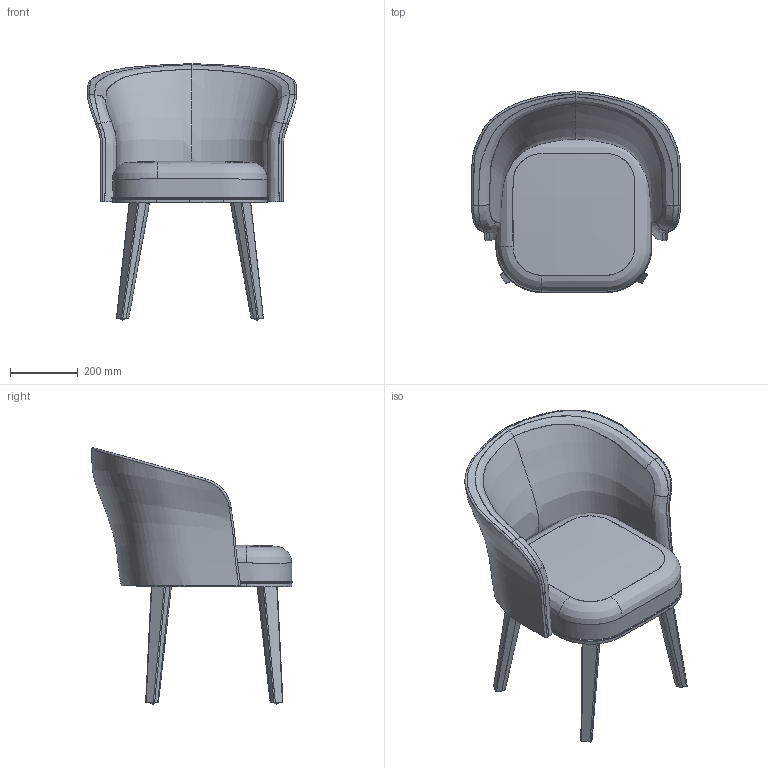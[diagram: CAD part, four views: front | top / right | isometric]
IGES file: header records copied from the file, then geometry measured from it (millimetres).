
Global section: file name: C:\Users\market02\Desktop\RYAN\FMERIBR060_BRIDGE_DINNING CHAIR_MERINGUE\Nouveau dossier\FMERIBR060_BRIDGE_DINNING CHAIR_MERINGUE.igs; native system: Rhinoceros ( Dec 14 2021 ); preprocessor: Trout Lake IGES 012 Dec 14 2021; date: 220622.083230; units: millimetre
Bounding box: 613.76 x 590.22 x 754.01 mm (x, y, z)
Surface area: 1952650.7 mm2 (no closed solid volume)
Topology: 0 solids, 0 shells, 123 faces, 2132 edges, 2092 vertices
Faces by surface type: bspline 123
